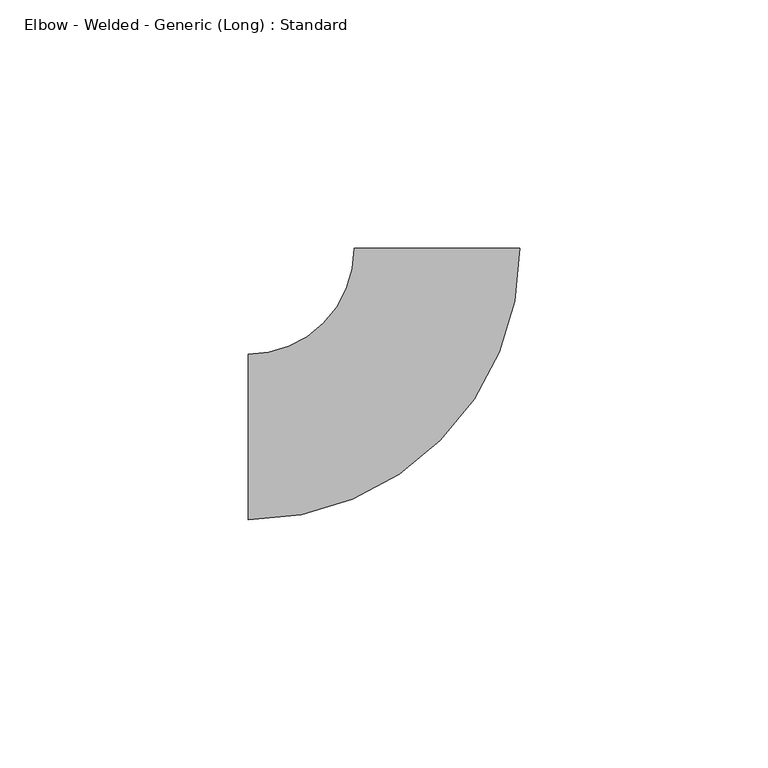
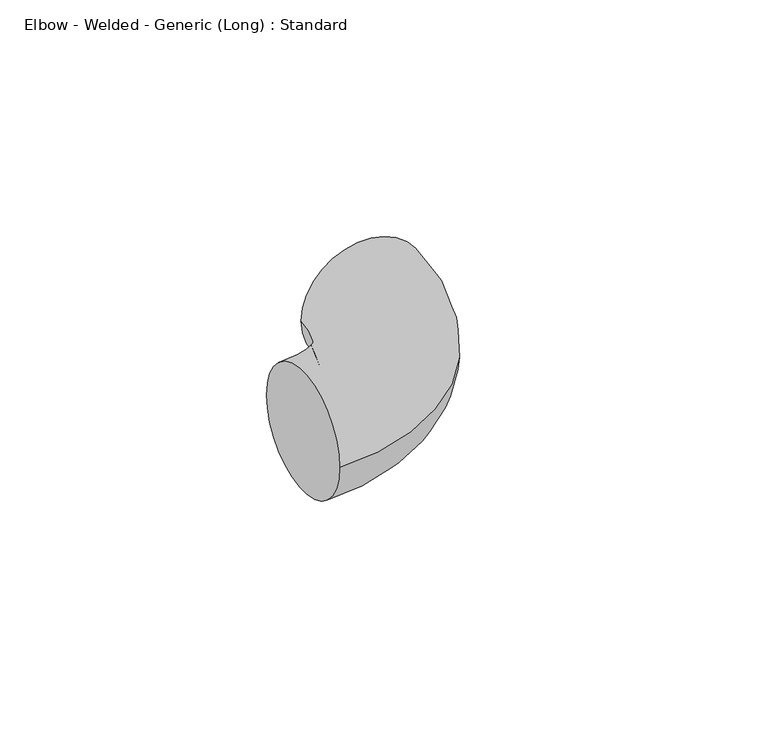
"""IFC4 building model written with IfcOpenShell, lengths in millimetres: pipe fitting geometry, Elbow - Welded - Generic (Long) : Standard."""

from ifc_helpers import new_model, si_unit, point, frame, origin, place, context, project, spatial, circle_curve, ellipse_curve, trimmed, source, transform, mapped, element, save
from ifc_brep_helpers import plane_surface, revolved_surface, advanced_brep


def elbow_welded_generic_long_standard_944f6193(model_context):
    return source(origin(), model_context, "Body", "AdvancedBrep", [
        advanced_brep(
        [(-38.1, -16.66875, 0.0), (-38.1, 16.66875, 0.0), (16.6680278, 38.1003159, 0.0), (-16.6694722, 38.099684, 0.0)],
        [
            (0, 1, circle_curve(frame((-38.1, 0.0, 0.0), z_axis=(-1.0, 0.0, 0.0), x_axis=(0.0, 1.0, 0.0)), 16.66875)),
            (1, 0, circle_curve(frame((-38.1, 0.0, 0.0), z_axis=(-1.0, 0.0, 0.0), x_axis=(0.0, 1.0, 0.0)), 16.66875)),
            (2, 3, circle_curve(frame((-0.0007222, 38.1, 0.0), z_axis=(-1.895503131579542e-05, 0.9999999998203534, 0.0), x_axis=(-0.9999999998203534, -1.895503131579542e-05, 0.0)), 16.66875)),
            (3, 2, circle_curve(frame((-0.0007222, 38.1, 0.0), z_axis=(-1.895503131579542e-05, 0.9999999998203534, 0.0), x_axis=(-0.9999999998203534, -1.895503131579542e-05, 0.0)), 16.66875)),
            (3, 1, circle_curve(frame((-38.1, 38.0992778, 0.0), z_axis=(0.0, 0.0, -1.0), x_axis=(0.0, -1.0, 0.0)), 21.4305278)),
            (0, 2, circle_curve(frame((-38.1, 38.0992778, 0.0), z_axis=(0.0, 0.0, 1.0), x_axis=(0.0, -1.0, 0.0)), 54.7680278)),
        ],
        [
            plane_surface(frame((-38.1, 0.0, 0.0), z_axis=(-1.0, 0.0, 0.0), x_axis=(0.0, 0.0, 1.0))),
            plane_surface(frame((-0.0007222, 38.1, 0.0), z_axis=(-1.89550313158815e-05, 0.9999999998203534, 0.0), x_axis=(0.0, 0.0, 1.0))),
            revolved_surface(trimmed(ellipse_curve(frame((-38.1, 0.0, 0.0), z_axis=(-1.0, 0.0, 0.0), x_axis=(0.0, 1.0, 0.0)), 16.66875, 16.66875), [point((-38.1, -16.66875, 0.0))], [point((-38.1, 16.66875, 0.0))], True, "CARTESIAN"), (-38.1, 38.0992778, 0.0), (0.0, 0.0, 1.0)),
            revolved_surface(trimmed(ellipse_curve(frame((-38.1, 0.0, 0.0), z_axis=(-1.0, 0.0, 0.0), x_axis=(0.0, 1.0, 0.0)), 16.66875, 16.66875), [point((-38.1, 16.66875, 0.0))], [point((-38.1, -16.66875, 0.0))], True, "CARTESIAN"), (-38.1, 38.0992778, 0.0), (0.0, 0.0, 1.0)),
        ],
        [
            (0, [[1, 2]]),
            (1, [[3, 4]]),
            (2, [[5, -1, 6, -4]]),
            (3, [[-6, -2, -5, -3]]),
        ],
    ),
    ])


if __name__ == "__main__":
    model = new_model("IFC4")
    model_context = context("Model", 3, world=origin())
    ifc_project = project(units=[si_unit("LENGTHUNIT", "METRE", prefix="MILLI")], contexts=[model_context])
    site = spatial("IfcSite", under=ifc_project)
    building = spatial("IfcBuilding", under=site)
    placement = place(None, origin())
    elbow_welded_generic_long_standard_shape = elbow_welded_generic_long_standard_944f6193(model_context)
    element("IfcPipeFitting", 1, ObjectType="Elbow - Welded - Generic (Long) : Standard", at=placement, inside=building, context=model_context, shape_type="MappedRepresentation", body=[
        mapped(elbow_welded_generic_long_standard_shape, transform((0.0, 0.0, 0.0), x_axis=(1.0, 0.0, 0.0), y_axis=(0.0, 1.0, 0.0), z_axis=(0.0, 0.0, 1.0))),
    ])
    save(model, "model.ifc")
